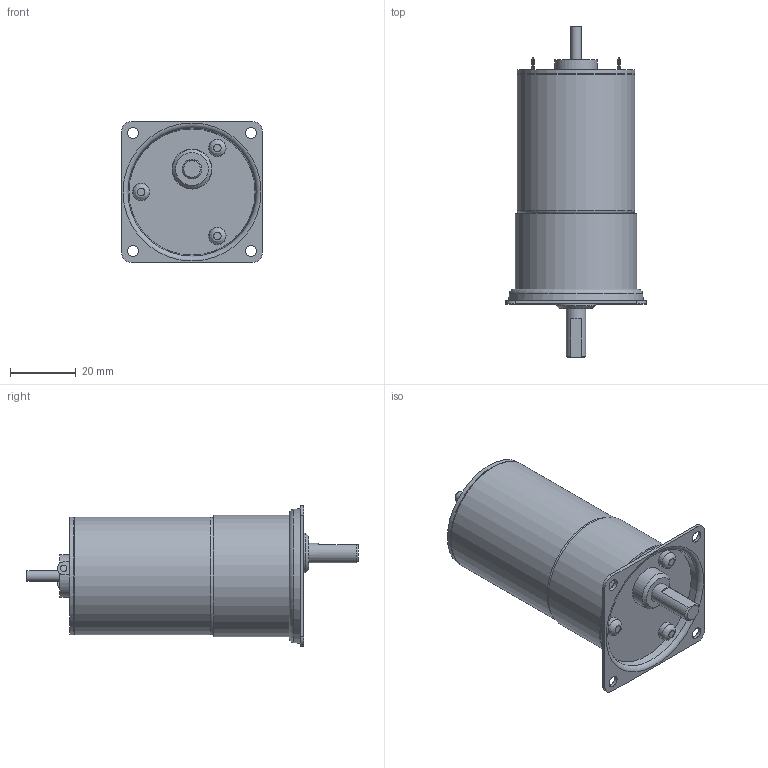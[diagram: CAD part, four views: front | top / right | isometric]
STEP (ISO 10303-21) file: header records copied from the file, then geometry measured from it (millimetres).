
FILE_DESCRIPTION((''),'2;1');
FILE_NAME('C:\Documents and Settings\SSEGAWA\デスクトップ\TP-3644L-PM-2.STP','2013-07-26T18:55:12',('SSEGAWA'),(''),'Autodesk Inventor 2010','Autodesk Inventor 2010','');
FILE_SCHEMA(('CONFIG_CONTROL_DESIGN'));
Length unit declared in the file: millimetre
Products named in the file (1): tp_3644l_pm_2_Shrinkwrap_1
Bounding box: 43 x 101.3 x 43 mm (x, y, z)
Volume: 72910.8 mm3; surface area: 14218.3 mm2
Topology: 1 solids, 12 shells, 105 faces, 209 edges, 139 vertices
Faces by surface type: plane 47, cylinder 27, bspline 23, torus 4, cone 4
Full cylindrical faces by diameter (mm): 3 x1, 3.175 x1, 3.5 x1, 4 x3, 5.3 x3, 6 x1, 12 x1, 12.2 x1, 13 x1, 35.6 x1, 36 x2, 37 x1
Entity records: 2825 total; most frequent: CARTESIAN_POINT 837, DIRECTION 397, ORIENTED_EDGE 278, AXIS2_PLACEMENT_3D 177, EDGE_LOOP 175, EDGE_CURVE 139, VERTEX_POINT 116, STYLED_ITEM 106
